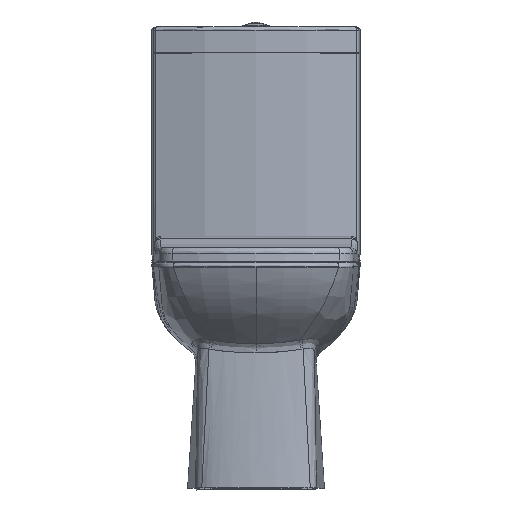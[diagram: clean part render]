
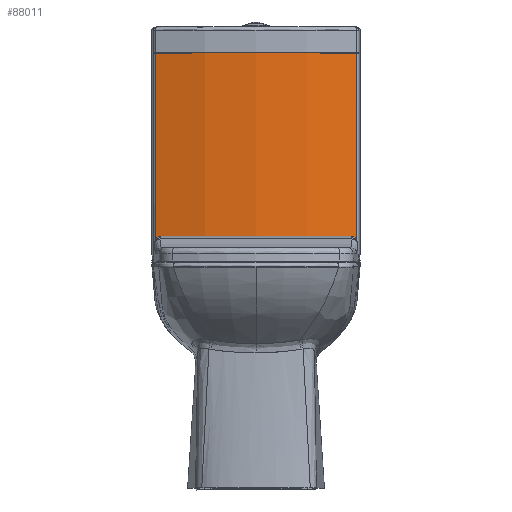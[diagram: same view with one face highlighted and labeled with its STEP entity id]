
A CAD part, top view. The second image highlights one B-rep face of the part: STEP entity #88011.
In plain terms, the highlighted cylindrical face has radius 563.396 mm (diameter 1126.79 mm), a partial arc.
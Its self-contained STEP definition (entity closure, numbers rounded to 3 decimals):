
#13470 = EDGE_LOOP ( 'NONE', ( #184687, #153554, #171288, #123346 ) ) ;
#20317 = VERTEX_POINT ( 'NONE', #210438 ) ;
#20476 = CIRCLE ( 'NONE', #157022, 563.396 ) ;
#20630 = DIRECTION ( 'NONE',  ( 0., -1., 0. ) ) ;
#31632 = AXIS2_PLACEMENT_3D ( 'NONE', #161549, #20630, #211640 ) ;
#45562 = CARTESIAN_POINT ( 'NONE',  ( 193.993, 559.39, -506.656 ) ) ;
#49835 = AXIS2_PLACEMENT_3D ( 'NONE', #192298, #105947, #122622 ) ;
#50274 = VERTEX_POINT ( 'NONE', #224489 ) ;
#55660 = VECTOR ( 'NONE', #66244, 1000. ) ;
#56292 = DIRECTION ( 'NONE',  ( 0., 1., 0. ) ) ;
#66244 = DIRECTION ( 'NONE',  ( 0., -1., 0. ) ) ;
#66535 = LINE ( 'NONE', #101857, #55660 ) ;
#66612 = DIRECTION ( 'NONE',  ( 0., -1., 0. ) ) ;
#76484 = CIRCLE ( 'NONE', #49835, 563.396 ) ;
#88011 = ADVANCED_FACE ( 'NONE', ( #137499 ), #115787, .T. ) ;
#101857 = CARTESIAN_POINT ( 'NONE',  ( -157.03, 383.69, -506.656 ) ) ;
#102605 = CARTESIAN_POINT ( 'NONE',  ( 193.993, 604.99, -506.656 ) ) ;
#105947 = DIRECTION ( 'NONE',  ( 0., 1., 0. ) ) ;
#115415 = EDGE_CURVE ( 'NONE', #50274, #202822, #20476, .T. ) ;
#115787 = CYLINDRICAL_SURFACE ( 'NONE', #31632, 563.396 ) ;
#122622 = DIRECTION ( 'NONE',  ( -1., 0., 0. ) ) ;
#123346 = ORIENTED_EDGE ( 'NONE', *, *, #115415, .F. ) ;
#125557 = EDGE_CURVE ( 'NONE', #20317, #195963, #76484, .T. ) ;
#137499 = FACE_OUTER_BOUND ( 'NONE', #13470, .T. ) ;
#148467 = LINE ( 'NONE', #102605, #175632 ) ;
#153554 = ORIENTED_EDGE ( 'NONE', *, *, #125557, .F. ) ;
#157022 = AXIS2_PLACEMENT_3D ( 'NONE', #170424, #66612, #187843 ) ;
#161549 = CARTESIAN_POINT ( 'NONE',  ( 18.482, 604.99, -1042.016 ) ) ;
#170424 = CARTESIAN_POINT ( 'NONE',  ( 18.482, 207.99, -1042.016 ) ) ;
#171288 = ORIENTED_EDGE ( 'NONE', *, *, #222586, .T. ) ;
#175632 = VECTOR ( 'NONE', #56292, 1000. ) ;
#182642 = CARTESIAN_POINT ( 'NONE',  ( -157.03, 207.99, -506.656 ) ) ;
#184687 = ORIENTED_EDGE ( 'NONE', *, *, #199981, .T. ) ;
#187843 = DIRECTION ( 'NONE',  ( 1., 0., 0. ) ) ;
#192298 = CARTESIAN_POINT ( 'NONE',  ( 18.482, 559.39, -1042.016 ) ) ;
#195963 = VERTEX_POINT ( 'NONE', #45562 ) ;
#199981 = EDGE_CURVE ( 'NONE', #50274, #195963, #148467, .T. ) ;
#202822 = VERTEX_POINT ( 'NONE', #182642 ) ;
#210438 = CARTESIAN_POINT ( 'NONE',  ( -157.03, 559.39, -506.656 ) ) ;
#211640 = DIRECTION ( 'NONE',  ( 1., 0., 0. ) ) ;
#222586 = EDGE_CURVE ( 'NONE', #20317, #202822, #66535, .T. ) ;
#224489 = CARTESIAN_POINT ( 'NONE',  ( 193.993, 207.99, -506.656 ) ) ;
